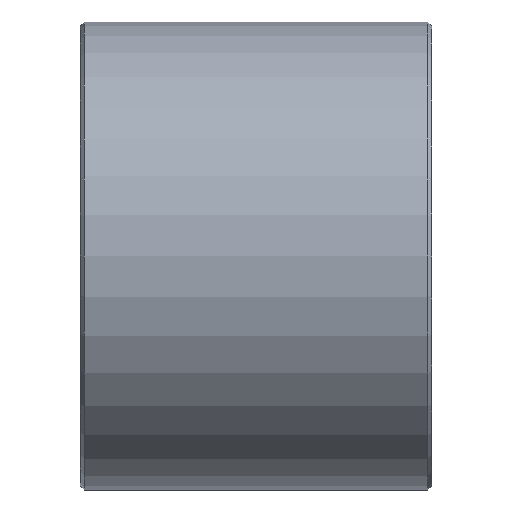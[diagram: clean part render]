
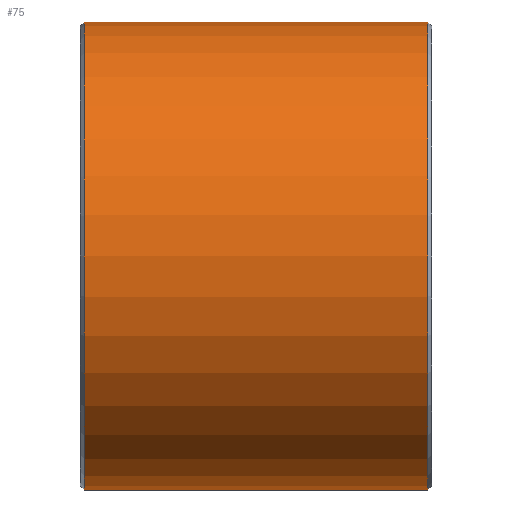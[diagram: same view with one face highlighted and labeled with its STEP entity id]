
A CAD part, left-side view. The second image highlights one B-rep face of the part: STEP entity #75.
In plain terms, the highlighted cylindrical face has radius 30 mm (diameter 60 mm), a partial arc.
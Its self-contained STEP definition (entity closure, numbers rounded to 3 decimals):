
#73 = CIRCLE ( 'NONE', #208, 30. ) ;
#75 = ADVANCED_FACE ( 'NONE', ( #1221 ), #648, .T. ) ;
#112 = LINE ( 'NONE', #317, #771 ) ;
#205 = ORIENTED_EDGE ( 'NONE', *, *, #259, .T. ) ;
#208 = AXIS2_PLACEMENT_3D ( 'NONE', #1042, #228, #764 ) ;
#228 = DIRECTION ( 'NONE',  ( 0., 1., 0. ) ) ;
#236 = LINE ( 'NONE', #526, #327 ) ;
#259 = EDGE_CURVE ( 'NONE', #899, #1239, #236, .T. ) ;
#316 = ORIENTED_EDGE ( 'NONE', *, *, #383, .T. ) ;
#317 = CARTESIAN_POINT ( 'NONE',  ( 0., 65.513, -30. ) ) ;
#327 = VECTOR ( 'NONE', #741, 1000. ) ;
#383 = EDGE_CURVE ( 'NONE', #1139, #899, #73, .T. ) ;
#476 = AXIS2_PLACEMENT_3D ( 'NONE', #1245, #855, #966 ) ;
#505 = CIRCLE ( 'NONE', #476, 30. ) ;
#526 = CARTESIAN_POINT ( 'NONE',  ( 0., 65.513, 30. ) ) ;
#554 = EDGE_CURVE ( 'NONE', #1239, #833, #505, .T. ) ;
#602 = CARTESIAN_POINT ( 'NONE',  ( 0., 1., -30. ) ) ;
#632 = ORIENTED_EDGE ( 'NONE', *, *, #554, .T. ) ;
#643 = DIRECTION ( 'NONE',  ( 0., 1., 0. ) ) ;
#648 = CYLINDRICAL_SURFACE ( 'NONE', #707, 30. ) ;
#707 = AXIS2_PLACEMENT_3D ( 'NONE', #1091, #1119, #1027 ) ;
#741 = DIRECTION ( 'NONE',  ( 0., 1., 0. ) ) ;
#764 = DIRECTION ( 'NONE',  ( 0., 0., -1. ) ) ;
#771 = VECTOR ( 'NONE', #643, 1000. ) ;
#833 = VERTEX_POINT ( 'NONE', #602 ) ;
#836 = CARTESIAN_POINT ( 'NONE',  ( 0., -43., 30. ) ) ;
#855 = DIRECTION ( 'NONE',  ( 0., -1., 0. ) ) ;
#899 = VERTEX_POINT ( 'NONE', #836 ) ;
#917 = EDGE_LOOP ( 'NONE', ( #974, #316, #205, #632 ) ) ;
#966 = DIRECTION ( 'NONE',  ( 0., 0., 1. ) ) ;
#974 = ORIENTED_EDGE ( 'NONE', *, *, #988, .F. ) ;
#988 = EDGE_CURVE ( 'NONE', #1139, #833, #112, .T. ) ;
#1027 = DIRECTION ( 'NONE',  ( 0., 0., 1. ) ) ;
#1042 = CARTESIAN_POINT ( 'NONE',  ( 0., -43., 0. ) ) ;
#1091 = CARTESIAN_POINT ( 'NONE',  ( 0., 65.513, 0. ) ) ;
#1119 = DIRECTION ( 'NONE',  ( 0., 1., 0. ) ) ;
#1136 = CARTESIAN_POINT ( 'NONE',  ( 0., 1., 30. ) ) ;
#1139 = VERTEX_POINT ( 'NONE', #1229 ) ;
#1221 = FACE_OUTER_BOUND ( 'NONE', #917, .T. ) ;
#1229 = CARTESIAN_POINT ( 'NONE',  ( 0., -43., -30. ) ) ;
#1239 = VERTEX_POINT ( 'NONE', #1136 ) ;
#1245 = CARTESIAN_POINT ( 'NONE',  ( 0., 1., 0. ) ) ;
